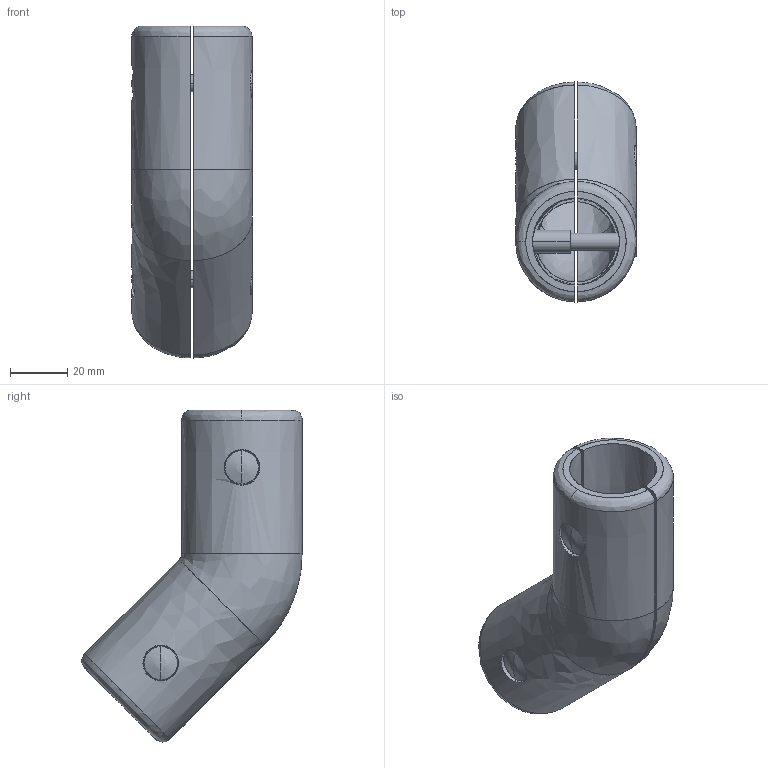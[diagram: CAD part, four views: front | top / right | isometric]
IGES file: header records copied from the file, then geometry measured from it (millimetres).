
Start section: SolidWorks IGES file using analytic representation for surfaces
Global section: file name: C:\Users\Gerard\OneDrive - Tecnodin, S.L\Escritorio\30 mm Verbinder im step. Format\31000410027.IGS; native system: SolidWorks 2016; preprocessor: SolidWorks 2016; author: Gerard; date: 240902.113927; units: millimetre
Bounding box: 42 x 76.82 x 115.82 mm (x, y, z)
Surface area: 34158.2 mm2 (no closed solid volume)
Topology: 0 solids, 0 shells, 129 faces, 2430 edges, 2420 vertices
Faces by surface type: revolution 77, bspline 52
